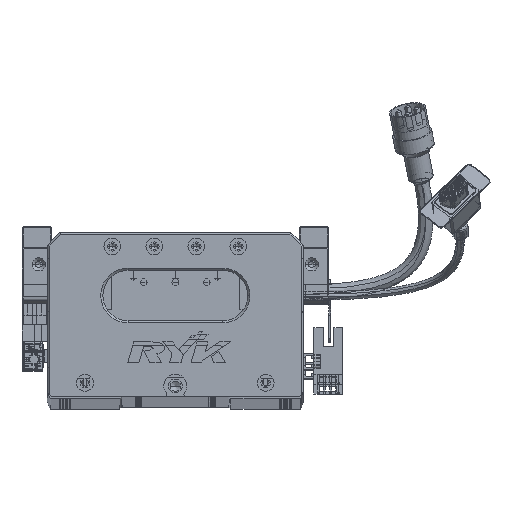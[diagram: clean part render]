
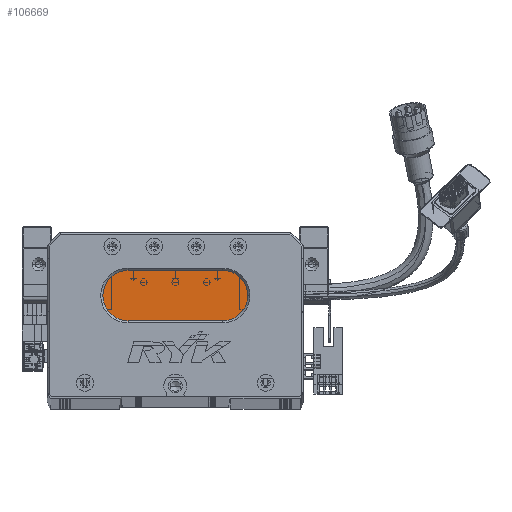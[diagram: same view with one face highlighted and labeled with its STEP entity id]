
A CAD part, top view. The second image highlights one B-rep face of the part: STEP entity #106669.
In plain terms, the highlighted planar face has unit normal (0, 0, 1) as drawn and (0, 0, -1) by its records, which use the part's own axes.
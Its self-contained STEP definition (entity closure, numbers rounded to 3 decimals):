
#6771 = DIRECTION ( 'NONE',  ( -1., 0., 0. ) ) ;
#8442 = CARTESIAN_POINT ( 'NONE',  ( 38.5, 36., 13. ) ) ;
#10220 = CARTESIAN_POINT ( 'NONE',  ( 83.5, 60., 13. ) ) ;
#12709 = EDGE_LOOP ( 'NONE', ( #83316, #65442, #107408, #15565, #87535 ) ) ;
#15565 = ORIENTED_EDGE ( 'NONE', *, *, #81810, .T. ) ;
#16157 = CARTESIAN_POINT ( 'NONE',  ( 83.5, 36., 13. ) ) ;
#17220 = VERTEX_POINT ( 'NONE', #10220 ) ;
#18378 = AXIS2_PLACEMENT_3D ( 'NONE', #55638, #65423, #76433 ) ;
#20999 = LINE ( 'NONE', #69132, #125720 ) ;
#21185 = EDGE_CURVE ( 'NONE', #72526, #127282, #112289, .T. ) ;
#30681 = CARTESIAN_POINT ( 'NONE',  ( 26.5, 48., 13. ) ) ;
#31496 = CIRCLE ( 'NONE', #94245, 12. ) ;
#37354 = EDGE_CURVE ( 'NONE', #127282, #110128, #31496, .T. ) ;
#44424 = DIRECTION ( 'NONE',  ( -1., 0., 0. ) ) ;
#46391 = AXIS2_PLACEMENT_3D ( 'NONE', #64935, #115874, #66209 ) ;
#47451 = FACE_OUTER_BOUND ( 'NONE', #12709, .T. ) ;
#48486 = CARTESIAN_POINT ( 'NONE',  ( 83.5, 36., 13. ) ) ;
#51427 = AXIS2_PLACEMENT_3D ( 'NONE', #94916, #105083, #44424 ) ;
#55638 = CARTESIAN_POINT ( 'NONE',  ( 83.5, 48., 13. ) ) ;
#64114 = VERTEX_POINT ( 'NONE', #68299 ) ;
#64935 = CARTESIAN_POINT ( 'NONE',  ( 83.5, 48., 13. ) ) ;
#65423 = DIRECTION ( 'NONE',  ( 0., 0., -1. ) ) ;
#65442 = ORIENTED_EDGE ( 'NONE', *, *, #21185, .T. ) ;
#66209 = DIRECTION ( 'NONE',  ( -1., 0., 0. ) ) ;
#68299 = CARTESIAN_POINT ( 'NONE',  ( 38.5, 60., 13. ) ) ;
#69132 = CARTESIAN_POINT ( 'NONE',  ( 83.5, 60., 13. ) ) ;
#70081 = DIRECTION ( 'NONE',  ( 0., 0., -1. ) ) ;
#72526 = VERTEX_POINT ( 'NONE', #16157 ) ;
#76433 = DIRECTION ( 'NONE',  ( -1., 0., 0. ) ) ;
#77997 = CIRCLE ( 'NONE', #51427, 12. ) ;
#81810 = EDGE_CURVE ( 'NONE', #110128, #64114, #77997, .T. ) ;
#83316 = ORIENTED_EDGE ( 'NONE', *, *, #116421, .T. ) ;
#85391 = VECTOR ( 'NONE', #6771, 1000. ) ;
#87535 = ORIENTED_EDGE ( 'NONE', *, *, #104564, .T. ) ;
#94245 = AXIS2_PLACEMENT_3D ( 'NONE', #99321, #70081, #130900 ) ;
#94916 = CARTESIAN_POINT ( 'NONE',  ( 38.5, 48., 13. ) ) ;
#99321 = CARTESIAN_POINT ( 'NONE',  ( 38.5, 48., 13. ) ) ;
#102328 = DIRECTION ( 'NONE',  ( 1., 0., 0. ) ) ;
#104564 = EDGE_CURVE ( 'NONE', #64114, #17220, #20999, .T. ) ;
#105083 = DIRECTION ( 'NONE',  ( 0., 0., -1. ) ) ;
#106669 = ADVANCED_FACE ( 'NONE', ( #47451 ), #127049, .T. ) ;
#107408 = ORIENTED_EDGE ( 'NONE', *, *, #37354, .T. ) ;
#110128 = VERTEX_POINT ( 'NONE', #30681 ) ;
#112289 = LINE ( 'NONE', #48486, #85391 ) ;
#112573 = CIRCLE ( 'NONE', #46391, 12. ) ;
#115874 = DIRECTION ( 'NONE',  ( 0., 0., -1. ) ) ;
#116421 = EDGE_CURVE ( 'NONE', #17220, #72526, #112573, .T. ) ;
#125720 = VECTOR ( 'NONE', #102328, 1000. ) ;
#127049 = PLANE ( 'NONE',  #18378 ) ;
#127282 = VERTEX_POINT ( 'NONE', #8442 ) ;
#130900 = DIRECTION ( 'NONE',  ( -1., 0., 0. ) ) ;
